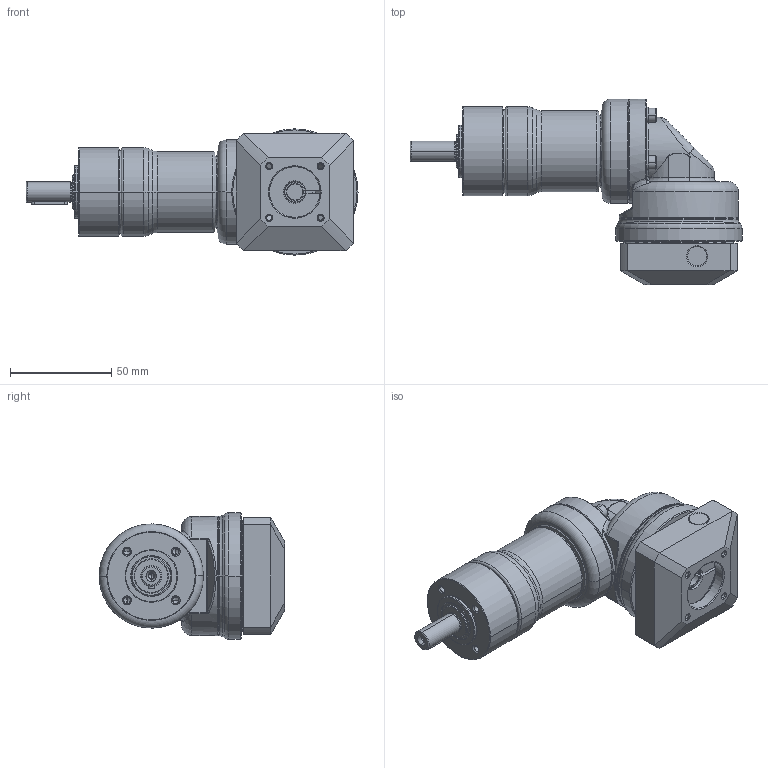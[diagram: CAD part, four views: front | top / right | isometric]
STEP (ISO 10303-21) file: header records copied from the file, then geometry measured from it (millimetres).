
FILE_DESCRIPTION((''),'2;1');
FILE_NAME('PG2R-040_3ST_8-P0411100101_ASM','2016-04-26T',('d01943'),(''),'PRO/ENGINEER BY PARAMETRIC TECHNOLOGY CORPORATION, 2008410','PRO/ENGINEER BY PARAMETRIC TECHNOLOGY CORPORATION, 2008410','');
FILE_SCHEMA(('CONFIG_CONTROL_DESIGN'));
Length unit declared in the file: millimetre
Products named in the file (12): P1325100001; P0273100001; P0350101103; P1349100001; P1017100001; P0713100001; P0503100005; P1350100001; P0411100101; P1702300001; 2111B104015; PG2R-040_3ST_8-P0411100101_ASM
Assembly tree (14 placements, depth 2):
  PG2R-040_3ST_8-P0411100101_ASM
    P1325100001
    P0273100001
    P0350101103
    P1349100001
    P1017100001
    P0713100001
    P0503100005
    P1350100001
    P0411100101
    P1702300001
    2111B104015  x4
Bounding box: 164.25 x 91.75 x 62.5 mm (x, y, z)
Volume: 197605.9 mm3; surface area: 79391.8 mm2
Topology: 14 solids, 15 shells, 730 faces, 1603 edges, 934 vertices
Faces by surface type: cylinder 224, cone 200, plane 163, torus 108, bspline 35
Entity records: 23402 total; most frequent: CARTESIAN_POINT 9205, DIRECTION 3160, ORIENTED_EDGE 2746, EDGE_CURVE 1373, AXIS2_PLACEMENT_3D 1344, VERTEX_POINT 814, CIRCLE 722, EDGE_LOOP 715
